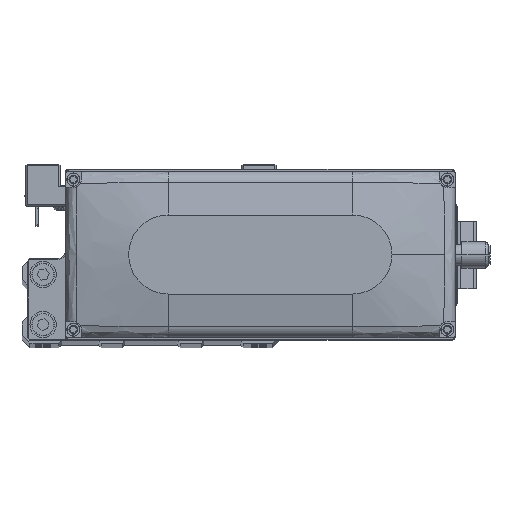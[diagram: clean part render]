
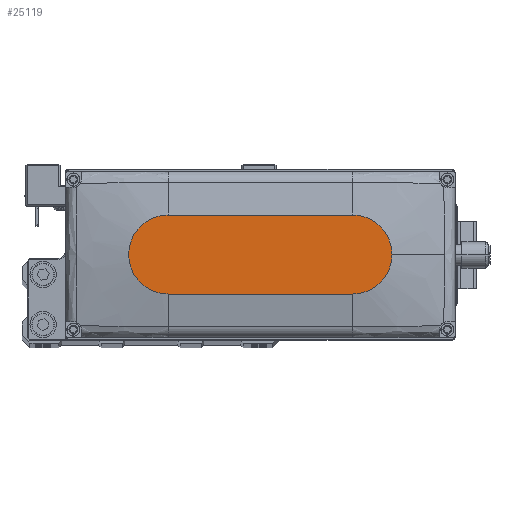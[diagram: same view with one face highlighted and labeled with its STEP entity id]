
A CAD part, top view. The second image highlights one B-rep face of the part: STEP entity #25119.
In plain terms, the highlighted planar face has unit normal (0, 0, 1).
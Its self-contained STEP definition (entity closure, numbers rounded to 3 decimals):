
#625 = CIRCLE ( 'NONE', #25563, 15. ) ;
#660 = VERTEX_POINT ( 'NONE', #42769 ) ;
#1375 = EDGE_LOOP ( 'NONE', ( #25536, #33633, #12002, #12632, #36488 ) ) ;
#2872 = LINE ( 'NONE', #16525, #28670 ) ;
#3387 = CARTESIAN_POINT ( 'NONE',  ( 0., 0., 35. ) ) ;
#3598 = CIRCLE ( 'NONE', #28554, 15. ) ;
#3841 = VERTEX_POINT ( 'NONE', #16194 ) ;
#6907 = EDGE_CURVE ( 'NONE', #660, #13700, #625, .T. ) ;
#7596 = AXIS2_PLACEMENT_3D ( 'NONE', #38311, #7751, #21386 ) ;
#7751 = DIRECTION ( 'NONE',  ( 0., 0., 1. ) ) ;
#10515 = DIRECTION ( 'NONE',  ( 0., 0., 1. ) ) ;
#10913 = LINE ( 'NONE', #24555, #36058 ) ;
#11323 = EDGE_CURVE ( 'NONE', #27195, #660, #26850, .T. ) ;
#12002 = ORIENTED_EDGE ( 'NONE', *, *, #17570, .T. ) ;
#12632 = ORIENTED_EDGE ( 'NONE', *, *, #11323, .T. ) ;
#13524 = DIRECTION ( 'NONE',  ( 1., 0., 0. ) ) ;
#13700 = VERTEX_POINT ( 'NONE', #37271 ) ;
#16194 = CARTESIAN_POINT ( 'NONE',  ( -35., 15., 35. ) ) ;
#16525 = CARTESIAN_POINT ( 'NONE',  ( -35., -15., 35. ) ) ;
#17035 = DIRECTION ( 'NONE',  ( 0., 0., 1. ) ) ;
#17118 = AXIS2_PLACEMENT_3D ( 'NONE', #3387, #17035, #30595 ) ;
#17570 = EDGE_CURVE ( 'NONE', #31217, #27195, #2872, .T. ) ;
#20369 = FACE_OUTER_BOUND ( 'NONE', #1375, .T. ) ;
#21386 = DIRECTION ( 'NONE',  ( 1., 0., 0. ) ) ;
#24158 = DIRECTION ( 'NONE',  ( 1., 0., 0. ) ) ;
#24555 = CARTESIAN_POINT ( 'NONE',  ( -35., 15., 35. ) ) ;
#25119 = ADVANCED_FACE ( 'NONE', ( #20369 ), #33951, .T. ) ;
#25536 = ORIENTED_EDGE ( 'NONE', *, *, #31736, .T. ) ;
#25563 = AXIS2_PLACEMENT_3D ( 'NONE', #41073, #10515, #24158 ) ;
#26850 = CIRCLE ( 'NONE', #7596, 15. ) ;
#27195 = VERTEX_POINT ( 'NONE', #43072 ) ;
#28554 = AXIS2_PLACEMENT_3D ( 'NONE', #30466, #44049, #13524 ) ;
#28670 = VECTOR ( 'NONE', #30088, 1000. ) ;
#30088 = DIRECTION ( 'NONE',  ( 1., 0., 0. ) ) ;
#30466 = CARTESIAN_POINT ( 'NONE',  ( -35., 0., 35. ) ) ;
#30595 = DIRECTION ( 'NONE',  ( 1., 0., 0. ) ) ;
#31217 = VERTEX_POINT ( 'NONE', #40856 ) ;
#31736 = EDGE_CURVE ( 'NONE', #13700, #3841, #10913, .T. ) ;
#33633 = ORIENTED_EDGE ( 'NONE', *, *, #33682, .T. ) ;
#33682 = EDGE_CURVE ( 'NONE', #3841, #31217, #3598, .T. ) ;
#33951 = PLANE ( 'NONE',  #17118 ) ;
#36058 = VECTOR ( 'NONE', #38131, 1000. ) ;
#36488 = ORIENTED_EDGE ( 'NONE', *, *, #6907, .T. ) ;
#37271 = CARTESIAN_POINT ( 'NONE',  ( 35., 15., 35. ) ) ;
#38131 = DIRECTION ( 'NONE',  ( -1., 0., 0. ) ) ;
#38311 = CARTESIAN_POINT ( 'NONE',  ( 35., 0., 35. ) ) ;
#40856 = CARTESIAN_POINT ( 'NONE',  ( -35., -15., 35. ) ) ;
#41073 = CARTESIAN_POINT ( 'NONE',  ( 35., 0., 35. ) ) ;
#42769 = CARTESIAN_POINT ( 'NONE',  ( 50., 0., 35. ) ) ;
#43072 = CARTESIAN_POINT ( 'NONE',  ( 35., -15., 35. ) ) ;
#44049 = DIRECTION ( 'NONE',  ( 0., 0., 1. ) ) ;
